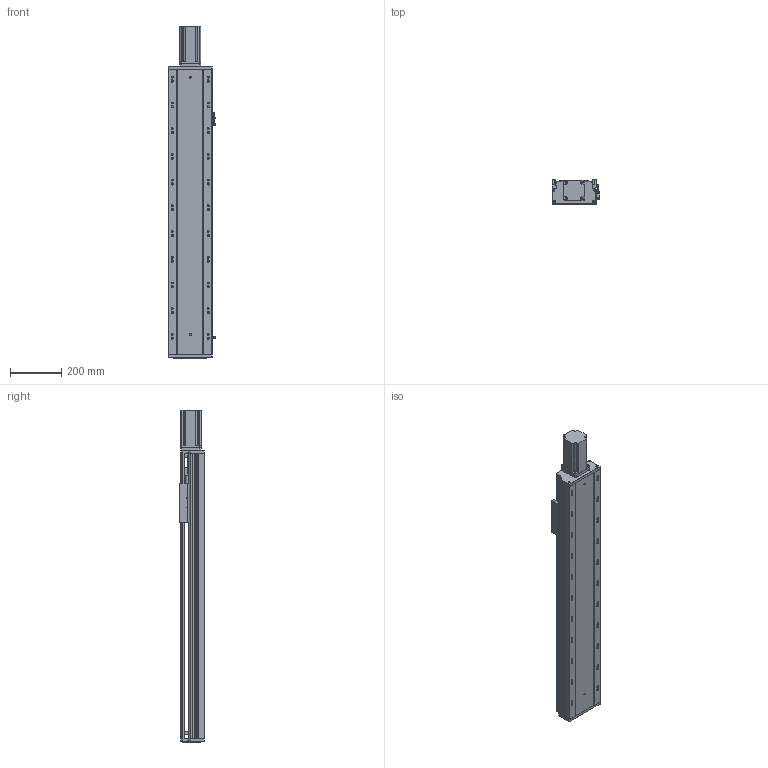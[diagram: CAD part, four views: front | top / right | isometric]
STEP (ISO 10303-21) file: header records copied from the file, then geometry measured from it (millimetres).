
FILE_DESCRIPTION (( 'STEP AP203' ), '1' );
FILE_NAME ('RY170-L2510-300-MK(FK17).SLDASM_800.step', '2022-08-23T02:00:36', ( '' ), ( '' ), 'SwSTEP 2.0', 'SolidWorks 2016', '' );
FILE_SCHEMA (( 'CONFIG_CONTROL_DESIGN' ));
Length unit declared in the file: millimetre
Products named in the file (15): RY170臏賑輸25佪裝蹟譫; 侂狟400W侜督萇儂; RY170綴裔啣; RY170ヶ醱裔啣; 15; RY170-300倰第菁釱-MK_800; 滅袉蝶18-10; 侂狟750W萇儂ㄗ80遺ㄘ; RY170电机端支撑座(25丝杆7004轴承)-压铸(FK17); 覜茼ん672; 滅袉蝶18-28; RY170-300倰第裔啣-MK_800; 750W萇儂梓袧蛌諉啣; RY170外置感应片(200共用）; RY170-L2510-300-MK(FK17).SLDASM_800
Assembly tree (16 placements, depth 3):
  RY170-L2510-300-MK(FK17).SLDASM_800
    RY170-300倰第菁釱-MK_800
    RY170-300倰第裔啣-MK_800
    RY170臏賑輸25佪裝蹟譫
    侂狟400W侜督萇儂
      15
    RY170綴裔啣
    RY170电机端支撑座(25丝杆7004轴承)-压铸(FK17)
    覜茼ん672  x3
    RY170外置感应片(200共用）
    RY170ヶ醱裔啣
    滅袉蝶18-28
    滅袉蝶18-10
    侂狟750W萇儂ㄗ80遺ㄘ
    750W萇儂梓袧蛌諉啣
Bounding box: 183.7 x 97 x 1291 mm (x, y, z)
Volume: 6892382.3 mm3; surface area: 2009991.2 mm2
Topology: 15 solids, 15 shells, 2271 faces, 6603 edges, 4222 vertices
Faces by surface type: plane 1014, cylinder 978, cone 243, bspline 36
Entity records: 74859 total; most frequent: CARTESIAN_POINT 17866, ORIENTED_EDGE 11914, DIRECTION 11343, EDGE_CURVE 5957, AXIS2_PLACEMENT_3D 3960, VERTEX_POINT 3902, LINE 3423, VECTOR 3423
